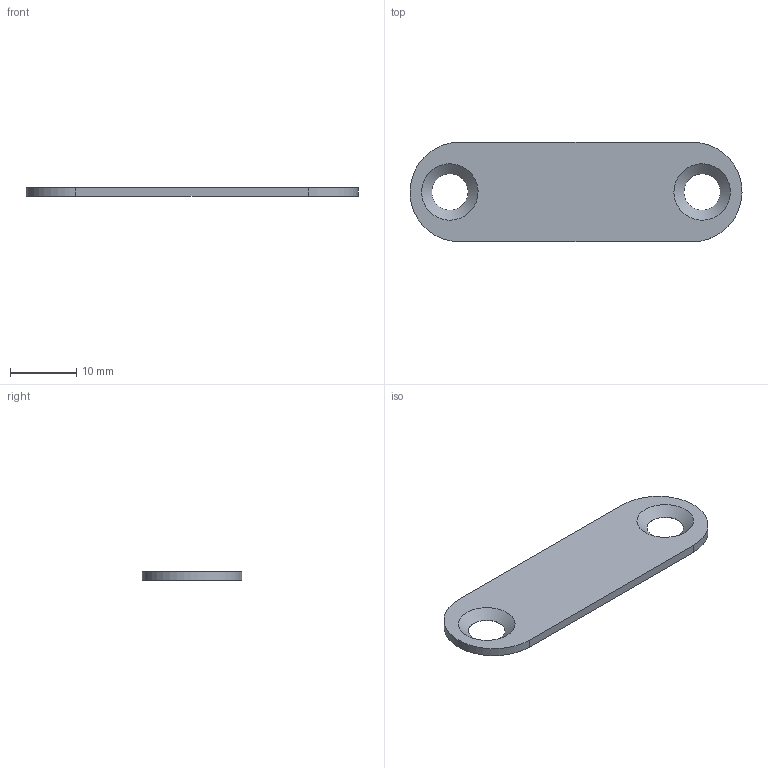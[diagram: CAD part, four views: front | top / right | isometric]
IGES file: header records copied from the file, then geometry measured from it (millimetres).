
Global section: file name: DR_B-M38; native system: Autodesk Inventor 2015; preprocessor: unknown; author: Administrator; date: 20170908.102518; units: millimetre
Bounding box: 50 x 15 x 1.3 mm (x, y, z)
Volume: 812.6 mm3; surface area: 1482.4 mm2
Topology: 1 solids, 1 shells, 10 faces, 26 edges, 18 vertices
Faces by surface type: bspline 10
